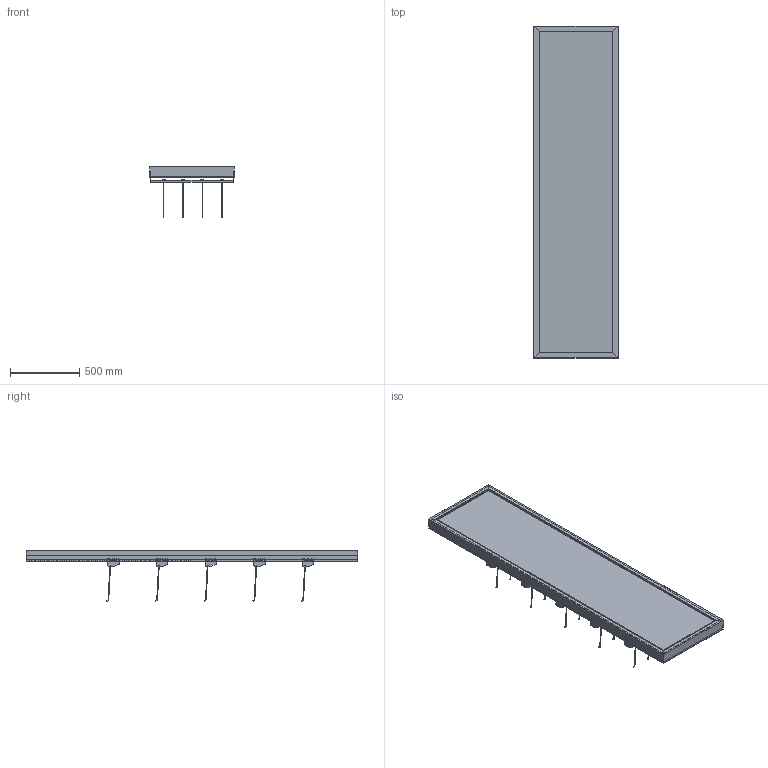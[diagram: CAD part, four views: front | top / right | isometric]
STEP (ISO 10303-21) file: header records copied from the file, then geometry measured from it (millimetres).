
FILE_DESCRIPTION (( 'STEP AP203' ), '1' );
FILE_NAME ('Slotted UpBright® Golf Glove Wall Fixture.STEP', '2026-03-31T10:59:36', ( '' ), ( '' ), 'SwSTEP 2.0', 'SolidWorks 2025', '' );
FILE_SCHEMA (( 'CONFIG_CONTROL_DESIGN' ));
Length unit declared in the file: millimetre
Products named in the file (9): 0001-31-103.STEP; 364-01-002_默认; 364-01-001_默认; 0001-31-SA23 - 610W Rear Support Bar.STEP; 0001-31-GA01 - 610W Slotted Upright; 0001-31-102.STEP; Slotted UpBright® Golf Glove Wall Fixture; 364-01-GA01_默认; 0001-31-SA23 - 610W Rear Support Bar_Assem6
Assembly tree (32 placements, depth 4):
  Slotted UpBright® Golf Glove Wall Fixture
    0001-31-GA01 - 610W Slotted Upright
    0001-31-SA23 - 610W Rear Support Bar_Assem6  x5
      0001-31-SA23 - 610W Rear Support Bar.STEP
        0001-31-102.STEP
        0001-31-103.STEP  x2
    364-01-GA01_默认  x20
      364-01-001_默认
      364-01-002_默认
Bounding box: 609.75 x 2400 x 365.29 mm (x, y, z)
Volume: 7129419.2 mm3; surface area: 8539931.7 mm2
Topology: 61 solids, 61 shells, 1410 faces, 3846 edges, 2484 vertices
Faces by surface type: plane 912, cylinder 418, torus 40, cone 40
Entity records: 18592 total; most frequent: CARTESIAN_POINT 3362, ORIENTED_EDGE 3090, DIRECTION 2511, EDGE_CURVE 1545, LINE 1393, VECTOR 1393, VERTEX_POINT 1026, AXIS2_PLACEMENT_3D 559
